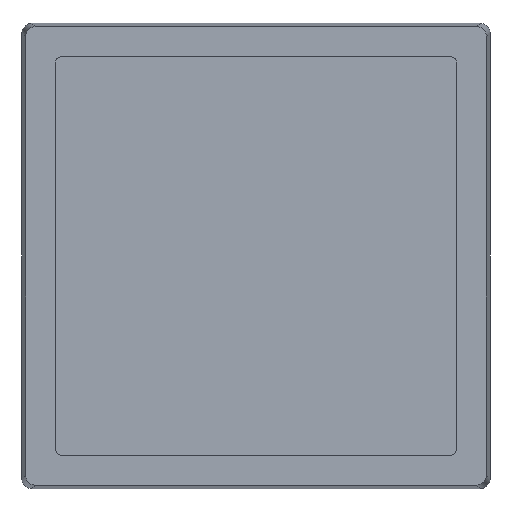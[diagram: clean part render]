
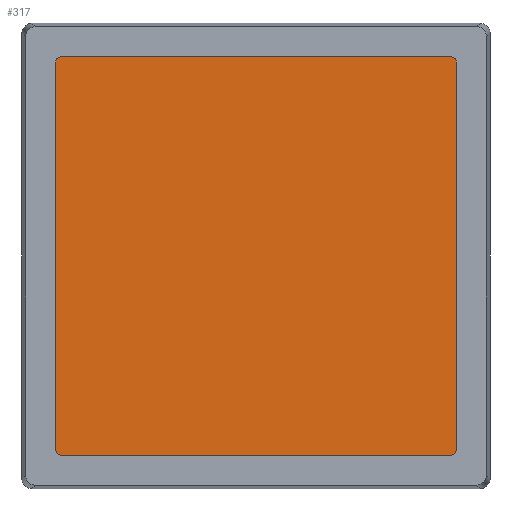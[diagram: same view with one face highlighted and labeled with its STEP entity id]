
A CAD part, top view. The second image highlights one B-rep face of the part: STEP entity #317.
In plain terms, the highlighted planar face has unit normal (0, 0, 1).
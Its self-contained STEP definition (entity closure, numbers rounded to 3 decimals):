
#6 = DIRECTION ( 'NONE',  ( 0., 1., 0. ) ) ;
#36 = VERTEX_POINT ( 'NONE', #105 ) ;
#54 = DIRECTION ( 'NONE',  ( -1., 0., 0. ) ) ;
#62 = DIRECTION ( 'NONE',  ( 1., 0., 0. ) ) ;
#70 = CARTESIAN_POINT ( 'NONE',  ( 30.9, 29.701, -1.4 ) ) ;
#105 = CARTESIAN_POINT ( 'NONE',  ( -30.9, 29.701, -1.4 ) ) ;
#116 = ORIENTED_EDGE ( 'NONE', *, *, #184, .F. ) ;
#120 = AXIS2_PLACEMENT_3D ( 'NONE', #754, #644, #528 ) ;
#133 = VECTOR ( 'NONE', #54, 1000. ) ;
#139 = DIRECTION ( 'NONE',  ( 0., 0., -1. ) ) ;
#148 = ORIENTED_EDGE ( 'NONE', *, *, #991, .F. ) ;
#156 = EDGE_CURVE ( 'NONE', #590, #689, #1465, .T. ) ;
#162 = VECTOR ( 'NONE', #6, 1000. ) ;
#163 = CARTESIAN_POINT ( 'NONE',  ( 29.9, 29.701, -1.4 ) ) ;
#164 = EDGE_CURVE ( 'NONE', #807, #590, #1235, .T. ) ;
#184 = EDGE_CURVE ( 'NONE', #36, #748, #1333, .T. ) ;
#199 = CARTESIAN_POINT ( 'NONE',  ( 32.972, 32.972, -1.4 ) ) ;
#211 = ORIENTED_EDGE ( 'NONE', *, *, #1222, .F. ) ;
#294 = CARTESIAN_POINT ( 'NONE',  ( 30.9, 30.701, -1.4 ) ) ;
#301 = LINE ( 'NONE', #775, #133 ) ;
#317 = ADVANCED_FACE ( 'NONE', ( #790 ), #922, .T. ) ;
#337 = CARTESIAN_POINT ( 'NONE',  ( -30.9, 30.701, -1.4 ) ) ;
#363 = LINE ( 'NONE', #829, #162 ) ;
#369 = LINE ( 'NONE', #337, #553 ) ;
#417 = AXIS2_PLACEMENT_3D ( 'NONE', #163, #139, #1353 ) ;
#475 = ORIENTED_EDGE ( 'NONE', *, *, #766, .F. ) ;
#491 = ORIENTED_EDGE ( 'NONE', *, *, #1307, .F. ) ;
#507 = CARTESIAN_POINT ( 'NONE',  ( 29.9, -30.701, -1.4 ) ) ;
#528 = DIRECTION ( 'NONE',  ( 1., 0., 0. ) ) ;
#553 = VECTOR ( 'NONE', #1057, 1000. ) ;
#590 = VERTEX_POINT ( 'NONE', #1542 ) ;
#592 = DIRECTION ( 'NONE',  ( 1., 0., 0. ) ) ;
#627 = ORIENTED_EDGE ( 'NONE', *, *, #1240, .F. ) ;
#644 = DIRECTION ( 'NONE',  ( 0., 0., -1. ) ) ;
#649 = DIRECTION ( 'NONE',  ( 0., 0., -1. ) ) ;
#669 = AXIS2_PLACEMENT_3D ( 'NONE', #765, #649, #62 ) ;
#670 = DIRECTION ( 'NONE',  ( 1., 0., 0. ) ) ;
#689 = VERTEX_POINT ( 'NONE', #507 ) ;
#723 = VERTEX_POINT ( 'NONE', #1113 ) ;
#748 = VERTEX_POINT ( 'NONE', #989 ) ;
#754 = CARTESIAN_POINT ( 'NONE',  ( 29.9, -29.701, -1.4 ) ) ;
#765 = CARTESIAN_POINT ( 'NONE',  ( -29.9, -29.701, -1.4 ) ) ;
#766 = EDGE_CURVE ( 'NONE', #1324, #1173, #1269, .T. ) ;
#775 = CARTESIAN_POINT ( 'NONE',  ( 30.9, -30.701, -1.4 ) ) ;
#790 = FACE_OUTER_BOUND ( 'NONE', #901, .T. ) ;
#807 = VERTEX_POINT ( 'NONE', #70 ) ;
#823 = ORIENTED_EDGE ( 'NONE', *, *, #156, .F. ) ;
#829 = CARTESIAN_POINT ( 'NONE',  ( -30.9, -30.701, -1.4 ) ) ;
#845 = CARTESIAN_POINT ( 'NONE',  ( -30.9, -29.701, -1.4 ) ) ;
#901 = EDGE_LOOP ( 'NONE', ( #823, #1517, #491, #211, #116, #627, #475, #148 ) ) ;
#922 = PLANE ( 'NONE',  #1401 ) ;
#989 = CARTESIAN_POINT ( 'NONE',  ( -29.9, 30.701, -1.4 ) ) ;
#990 = VECTOR ( 'NONE', #997, 1000. ) ;
#991 = EDGE_CURVE ( 'NONE', #689, #1324, #301, .T. ) ;
#997 = DIRECTION ( 'NONE',  ( 0., -1., 0. ) ) ;
#1057 = DIRECTION ( 'NONE',  ( 1., 0., 0. ) ) ;
#1091 = CARTESIAN_POINT ( 'NONE',  ( -29.9, 29.701, -1.4 ) ) ;
#1092 = CARTESIAN_POINT ( 'NONE',  ( -29.9, -30.701, -1.4 ) ) ;
#1101 = CIRCLE ( 'NONE', #417, 1. ) ;
#1113 = CARTESIAN_POINT ( 'NONE',  ( 29.9, 30.701, -1.4 ) ) ;
#1173 = VERTEX_POINT ( 'NONE', #845 ) ;
#1204 = AXIS2_PLACEMENT_3D ( 'NONE', #1091, #1442, #592 ) ;
#1222 = EDGE_CURVE ( 'NONE', #748, #723, #369, .T. ) ;
#1235 = LINE ( 'NONE', #294, #990 ) ;
#1240 = EDGE_CURVE ( 'NONE', #1173, #36, #363, .T. ) ;
#1269 = CIRCLE ( 'NONE', #669, 1. ) ;
#1307 = EDGE_CURVE ( 'NONE', #723, #807, #1101, .T. ) ;
#1324 = VERTEX_POINT ( 'NONE', #1092 ) ;
#1333 = CIRCLE ( 'NONE', #1204, 1. ) ;
#1353 = DIRECTION ( 'NONE',  ( 1., 0., 0. ) ) ;
#1399 = DIRECTION ( 'NONE',  ( 0., 0., 1. ) ) ;
#1401 = AXIS2_PLACEMENT_3D ( 'NONE', #199, #1399, #670 ) ;
#1442 = DIRECTION ( 'NONE',  ( 0., 0., -1. ) ) ;
#1465 = CIRCLE ( 'NONE', #120, 1. ) ;
#1517 = ORIENTED_EDGE ( 'NONE', *, *, #164, .F. ) ;
#1542 = CARTESIAN_POINT ( 'NONE',  ( 30.9, -29.701, -1.4 ) ) ;
